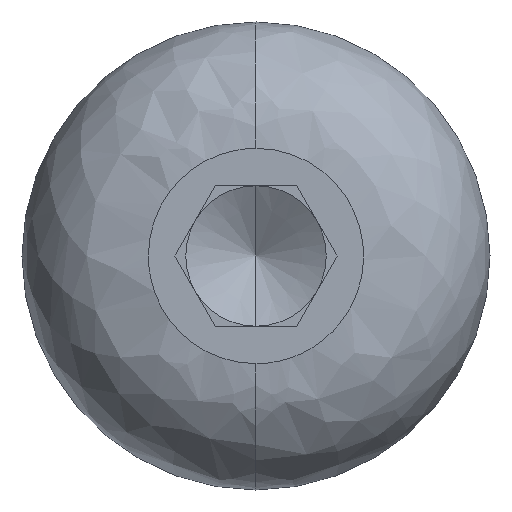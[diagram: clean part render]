
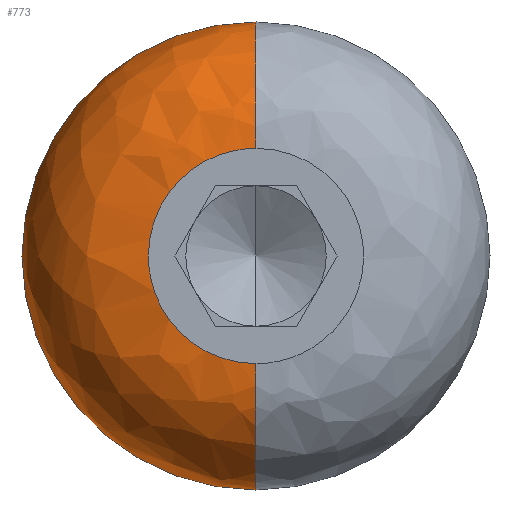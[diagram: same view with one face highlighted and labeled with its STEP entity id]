
A CAD part, left-side view. The second image highlights one B-rep face of the part: STEP entity #773.
In plain terms, the highlighted free-form (B-spline) face has degree [3, 3] with [4, 4] control points.
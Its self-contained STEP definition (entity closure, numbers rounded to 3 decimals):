
#9 = CARTESIAN_POINT ( 'NONE',  ( 0., 0., 2.3 ) ) ;
#61 = CARTESIAN_POINT ( 'NONE',  ( 0., 4.6, 2.3 ) ) ;
#73 = EDGE_CURVE ( 'NONE', #486, #521, #98, .T. ) ;
#95 = CARTESIAN_POINT ( 'NONE',  ( 0., 0., 2.3 ) ) ;
#98 =( BOUNDED_CURVE ( )  B_SPLINE_CURVE ( 3, ( #115, #206, #300, #95 ),
 .UNSPECIFIED., .F., .T. ) 
 B_SPLINE_CURVE_WITH_KNOTS ( ( 4, 4 ),
 ( 0., 1. ),
 .UNSPECIFIED. ) 
 CURVE ( )  GEOMETRIC_REPRESENTATION_ITEM ( )  RATIONAL_B_SPLINE_CURVE ( ( 1., 0.805, 0.805, 1. ) ) 
 REPRESENTATION_ITEM ( '' )  );
#105 = EDGE_CURVE ( 'NONE', #521, #412, #169, .T. ) ;
#115 = CARTESIAN_POINT ( 'NONE',  ( 0., 2.3, 0. ) ) ;
#169 = CIRCLE ( 'NONE', #598, 2.7 ) ;
#206 = CARTESIAN_POINT ( 'NONE',  ( 0., 2.3, 1.347 ) ) ;
#210 = EDGE_CURVE ( 'NONE', #345, #412, #575, .T. ) ;
#244 =( BOUNDED_CURVE ( )  B_SPLINE_CURVE ( 3, ( #330, #321, #316, #683 ),
 .UNSPECIFIED., .F., .F. ) 
 B_SPLINE_CURVE_WITH_KNOTS ( ( 4, 4 ),
 ( 0., 1. ),
 .UNSPECIFIED. ) 
 CURVE ( )  GEOMETRIC_REPRESENTATION_ITEM ( )  RATIONAL_B_SPLINE_CURVE ( ( 1., 0.805, 0.805, 1. ) ) 
 REPRESENTATION_ITEM ( '' )  );
#251 = CARTESIAN_POINT ( 'NONE',  ( 0., 0., 2.3 ) ) ;
#257 = CARTESIAN_POINT ( 'NONE',  ( 0., 2.3, 0. ) ) ;
#260 =( BOUNDED_SURFACE ( )  B_SPLINE_SURFACE ( 3, 3, ( 
 ( #9, #61, #308, #434 ),
 ( #366, #560, #548, #539 ),
 ( #535, #503, #476, #473 ),
 ( #466, #446, #444, #441 ) ),
 .UNSPECIFIED., .F., .F., .T. ) 
 B_SPLINE_SURFACE_WITH_KNOTS ( ( 4, 4 ),
 ( 4, 4 ),
 ( 0., 1. ),
 ( 0., 1. ),
 .UNSPECIFIED. ) 
 GEOMETRIC_REPRESENTATION_ITEM ( )  RATIONAL_B_SPLINE_SURFACE ( (
 ( 1., 0.333, 0.333, 1.),
 ( 0.805, 0.268, 0.268, 0.805),
 ( 0.805, 0.268, 0.268, 0.805),
 ( 1., 0.333, 0.333, 1.) ) ) 
 REPRESENTATION_ITEM ( '' )  SURFACE ( )  );
#300 = CARTESIAN_POINT ( 'NONE',  ( 0., 1.347, 2.3 ) ) ;
#306 = CARTESIAN_POINT ( 'NONE',  ( 2.7, 0., 5. ) ) ;
#308 = CARTESIAN_POINT ( 'NONE',  ( 0., 4.6, -2.3 ) ) ;
#316 = CARTESIAN_POINT ( 'NONE',  ( 0., 2.3, -1.347 ) ) ;
#321 = CARTESIAN_POINT ( 'NONE',  ( 0., 1.347, -2.3 ) ) ;
#330 = CARTESIAN_POINT ( 'NONE',  ( 0., 0., -2.3 ) ) ;
#345 = VERTEX_POINT ( 'NONE', #361 ) ;
#347 = EDGE_LOOP ( 'NONE', ( #637, #650, #675, #709, #731 ) ) ;
#348 = DIRECTION ( 'NONE',  ( 0., 0., -1. ) ) ;
#351 = DIRECTION ( 'NONE',  ( 0., -1., 0. ) ) ;
#352 = EDGE_CURVE ( 'NONE', #358, #345, #359, .T. ) ;
#353 = CARTESIAN_POINT ( 'NONE',  ( 2.7, 0., -2.3 ) ) ;
#358 = VERTEX_POINT ( 'NONE', #435 ) ;
#359 = CIRCLE ( 'NONE', #469, 2.7 ) ;
#361 = CARTESIAN_POINT ( 'NONE',  ( 2.7, 0., -5. ) ) ;
#366 = CARTESIAN_POINT ( 'NONE',  ( 0., 0., 3.882 ) ) ;
#393 = EDGE_CURVE ( 'NONE', #358, #486, #244, .T. ) ;
#406 = DIRECTION ( 'NONE',  ( 0., 0., 1. ) ) ;
#408 = DIRECTION ( 'NONE',  ( 1., 0., 0. ) ) ;
#410 = CARTESIAN_POINT ( 'NONE',  ( 2.7, 0., 0. ) ) ;
#412 = VERTEX_POINT ( 'NONE', #306 ) ;
#434 = CARTESIAN_POINT ( 'NONE',  ( 0., 0., -2.3 ) ) ;
#435 = CARTESIAN_POINT ( 'NONE',  ( 0., 0., -2.3 ) ) ;
#441 = CARTESIAN_POINT ( 'NONE',  ( 2.7, 0., -5. ) ) ;
#444 = CARTESIAN_POINT ( 'NONE',  ( 2.7, 10., -5. ) ) ;
#446 = CARTESIAN_POINT ( 'NONE',  ( 2.7, 10., 5. ) ) ;
#466 = CARTESIAN_POINT ( 'NONE',  ( 2.7, 0., 5. ) ) ;
#469 = AXIS2_PLACEMENT_3D ( 'NONE', #353, #351, #348 ) ;
#473 = CARTESIAN_POINT ( 'NONE',  ( 1.118, 0., -5. ) ) ;
#476 = CARTESIAN_POINT ( 'NONE',  ( 1.118, 10., -5. ) ) ;
#486 = VERTEX_POINT ( 'NONE', #257 ) ;
#490 = AXIS2_PLACEMENT_3D ( 'NONE', #410, #408, #406 ) ;
#503 = CARTESIAN_POINT ( 'NONE',  ( 1.118, 10., 5. ) ) ;
#521 = VERTEX_POINT ( 'NONE', #251 ) ;
#535 = CARTESIAN_POINT ( 'NONE',  ( 1.118, 0., 5. ) ) ;
#539 = CARTESIAN_POINT ( 'NONE',  ( 0., 0., -3.882 ) ) ;
#548 = CARTESIAN_POINT ( 'NONE',  ( 0., 7.763, -3.882 ) ) ;
#560 = CARTESIAN_POINT ( 'NONE',  ( 0., 7.763, 3.882 ) ) ;
#568 = DIRECTION ( 'NONE',  ( 0., 0., 1. ) ) ;
#570 = DIRECTION ( 'NONE',  ( 0., 1., 0. ) ) ;
#575 = CIRCLE ( 'NONE', #490, 5. ) ;
#578 = CARTESIAN_POINT ( 'NONE',  ( 2.7, 0., 2.3 ) ) ;
#598 = AXIS2_PLACEMENT_3D ( 'NONE', #578, #570, #568 ) ;
#637 = ORIENTED_EDGE ( 'NONE', *, *, #352, .F. ) ;
#650 = ORIENTED_EDGE ( 'NONE', *, *, #393, .T. ) ;
#675 = ORIENTED_EDGE ( 'NONE', *, *, #73, .T. ) ;
#683 = CARTESIAN_POINT ( 'NONE',  ( 0., 2.3, 0. ) ) ;
#709 = ORIENTED_EDGE ( 'NONE', *, *, #105, .T. ) ;
#731 = ORIENTED_EDGE ( 'NONE', *, *, #210, .F. ) ;
#736 = FACE_OUTER_BOUND ( 'NONE', #347, .T. ) ;
#773 = ADVANCED_FACE ( 'NONE', ( #736 ), #260, .T. ) ;
